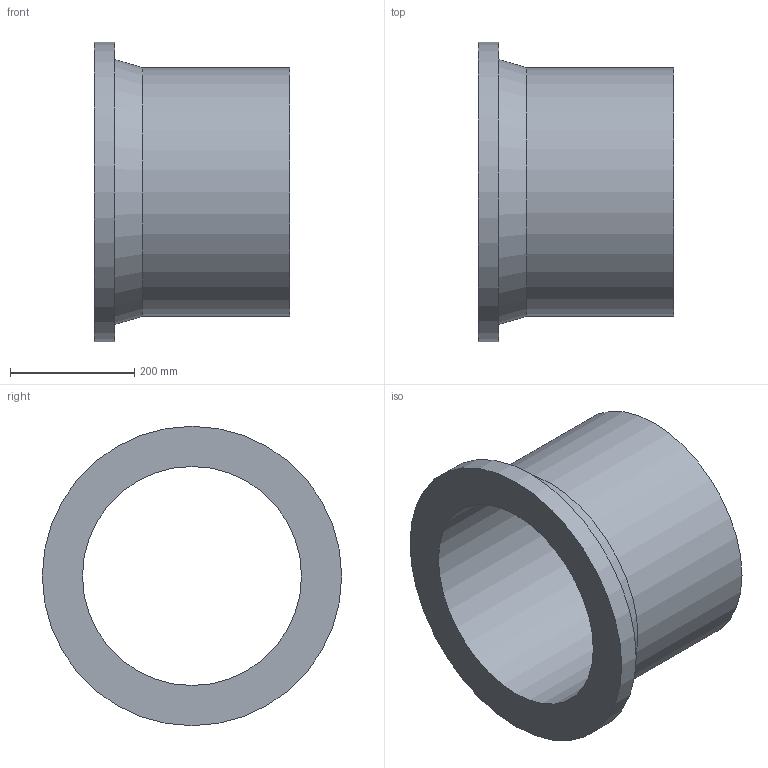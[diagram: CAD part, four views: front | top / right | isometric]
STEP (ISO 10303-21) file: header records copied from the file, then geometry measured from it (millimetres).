
FILE_DESCRIPTION(('Beschreibung'),'1');
FILE_NAME('V:/Ziel/25.80.01.063_SDR_17_PE100_400.STP', '2014-09-15T06:25:20',('Author'), ('Organization'), 'KCM Version 1.1.794.0', 'Kubotek KeyCreator', 'Authorization');
FILE_SCHEMA(('CONFIG_CONTROL_DESIGN'));
Length unit declared in the file: millimetre
Bounding box: 315 x 482 x 482 mm (x, y, z)
Volume: 11090370 mm3; surface area: 909862.3 mm2
Topology: 1 solids, 1 shells, 7 faces, 18 edges, 21 vertices
Faces by surface type: cylinder 3, plane 3, cone 1
Full cylindrical faces by diameter (mm): 352.6 x1, 400 x1, 482 x1
Entity records: 286 total; most frequent: DIRECTION 41, CARTESIAN_POINT 33, ORIENTED_EDGE 22, AXIS2_PLACEMENT_3D 15, EDGE_CURVE 11, VECTOR 11, LINE 11, EDGE_LOOP 10
